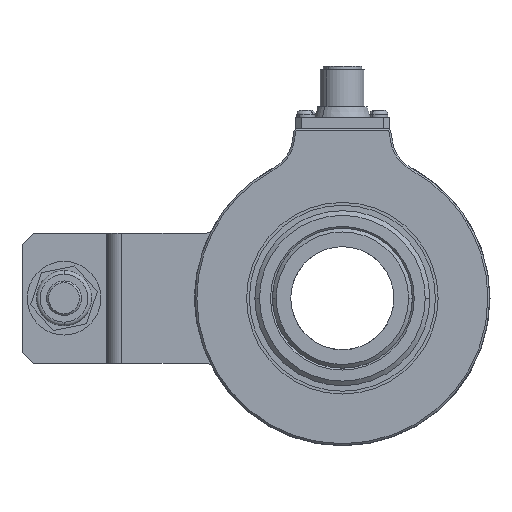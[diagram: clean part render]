
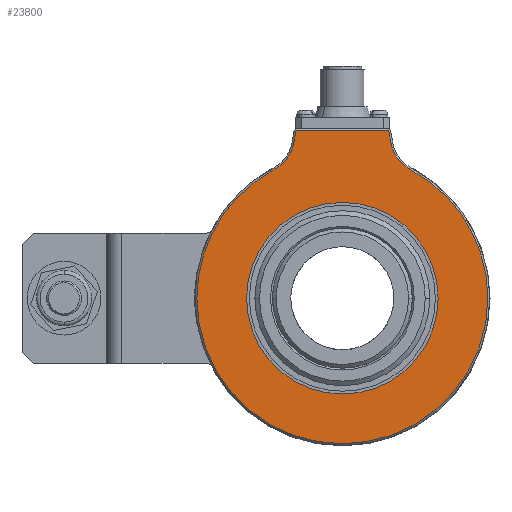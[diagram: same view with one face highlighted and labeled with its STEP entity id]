
A CAD part, left-side view. The second image highlights one B-rep face of the part: STEP entity #23800.
In plain terms, the highlighted planar face has unit normal (-1, 0, 0).
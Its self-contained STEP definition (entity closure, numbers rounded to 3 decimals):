
#132 = LINE ( 'NONE', #17100, #4516 ) ;
#799 = ORIENTED_EDGE ( 'NONE', *, *, #2074, .T. ) ;
#1121 = VERTEX_POINT ( 'NONE', #22113 ) ;
#1214 = DIRECTION ( 'NONE',  ( 1., 0., 0. ) ) ;
#1532 = ORIENTED_EDGE ( 'NONE', *, *, #3331, .T. ) ;
#1779 = DIRECTION ( 'NONE',  ( -1., 0., 0. ) ) ;
#1788 = CARTESIAN_POINT ( 'NONE',  ( -26., -18.776, 10.364 ) ) ;
#2074 = EDGE_CURVE ( 'NONE', #21952, #12821, #11910, .T. ) ;
#2285 = CIRCLE ( 'NONE', #24712, 39.5 ) ;
#2787 = DIRECTION ( 'NONE',  ( 0., -1., 0. ) ) ;
#3058 = CARTESIAN_POINT ( 'NONE',  ( -26., 0., 0. ) ) ;
#3172 = DIRECTION ( 'NONE',  ( 0., -1., 0. ) ) ;
#3219 = VERTEX_POINT ( 'NONE', #14138 ) ;
#3254 = PLANE ( 'NONE',  #25230 ) ;
#3331 = EDGE_CURVE ( 'NONE', #3219, #7469, #10582, .T. ) ;
#3537 = DIRECTION ( 'NONE',  ( -1., 0., 0. ) ) ;
#3846 = DIRECTION ( 'NONE',  ( 1., 0., 0. ) ) ;
#3973 = ORIENTED_EDGE ( 'NONE', *, *, #17272, .T. ) ;
#4516 = VECTOR ( 'NONE', #17234, 1000. ) ;
#4888 = DIRECTION ( 'NONE',  ( 1., 0., 0. ) ) ;
#4925 = CIRCLE ( 'NONE', #7189, 26. ) ;
#4972 = EDGE_CURVE ( 'NONE', #12821, #1121, #12468, .T. ) ;
#5895 = AXIS2_PLACEMENT_3D ( 'NONE', #8724, #3846, #21617 ) ;
#5929 = EDGE_CURVE ( 'NONE', #7469, #21952, #25199, .T. ) ;
#6425 = CARTESIAN_POINT ( 'NONE',  ( -26., 26., 0. ) ) ;
#6668 = VECTOR ( 'NONE', #10369, 1000. ) ;
#6674 = DIRECTION ( 'NONE',  ( 0., 0.174, -0.985 ) ) ;
#7189 = AXIS2_PLACEMENT_3D ( 'NONE', #17540, #4888, #20182 ) ;
#7469 = VERTEX_POINT ( 'NONE', #18604 ) ;
#7759 = FACE_BOUND ( 'NONE', #24065, .T. ) ;
#8068 = VERTEX_POINT ( 'NONE', #24023 ) ;
#8724 = CARTESIAN_POINT ( 'NONE',  ( -26., 0., 0. ) ) ;
#9091 = CARTESIAN_POINT ( 'NONE',  ( -26., 23.482, 44.143 ) ) ;
#9289 = CIRCLE ( 'NONE', #24971, 10.5 ) ;
#9656 = CARTESIAN_POINT ( 'NONE',  ( -26., -23.482, 44.143 ) ) ;
#10318 = EDGE_LOOP ( 'NONE', ( #22698, #26578, #15850, #3973, #19292, #1532, #16484, #799 ) ) ;
#10361 = DIRECTION ( 'NONE',  ( 0., -1., 0. ) ) ;
#10369 = DIRECTION ( 'NONE',  ( 0., 0.174, 0.985 ) ) ;
#10582 = CIRCLE ( 'NONE', #17724, 39.5 ) ;
#11153 = EDGE_CURVE ( 'NONE', #11327, #19068, #4925, .T. ) ;
#11327 = VERTEX_POINT ( 'NONE', #6425 ) ;
#11910 = CIRCLE ( 'NONE', #23996, 10.5 ) ;
#11945 = CARTESIAN_POINT ( 'NONE',  ( -26., 0., 0. ) ) ;
#12388 = EDGE_CURVE ( 'NONE', #1121, #8068, #132, .T. ) ;
#12468 = LINE ( 'NONE', #1788, #6668 ) ;
#12821 = VERTEX_POINT ( 'NONE', #18745 ) ;
#13973 = CARTESIAN_POINT ( 'NONE',  ( -26., -26., 0. ) ) ;
#14079 = FACE_OUTER_BOUND ( 'NONE', #10318, .T. ) ;
#14138 = CARTESIAN_POINT ( 'NONE',  ( -26., 39.5, 0. ) ) ;
#14328 = DIRECTION ( 'NONE',  ( 0., -1., 0. ) ) ;
#14425 = CIRCLE ( 'NONE', #5895, 26. ) ;
#15391 = CARTESIAN_POINT ( 'NONE',  ( -26., 21.188, -3.317 ) ) ;
#15850 = ORIENTED_EDGE ( 'NONE', *, *, #19979, .T. ) ;
#16484 = ORIENTED_EDGE ( 'NONE', *, *, #5929, .T. ) ;
#16560 = ORIENTED_EDGE ( 'NONE', *, *, #11153, .T. ) ;
#16705 = CARTESIAN_POINT ( 'NONE',  ( -26., -18.551, 34.873 ) ) ;
#17057 = VERTEX_POINT ( 'NONE', #26801 ) ;
#17100 = CARTESIAN_POINT ( 'NONE',  ( -26., 40., 45.5 ) ) ;
#17234 = DIRECTION ( 'NONE',  ( 0., 1., 0. ) ) ;
#17272 = EDGE_CURVE ( 'NONE', #17057, #18890, #9289, .T. ) ;
#17540 = CARTESIAN_POINT ( 'NONE',  ( -26., 0., 0. ) ) ;
#17724 = AXIS2_PLACEMENT_3D ( 'NONE', #20995, #1779, #10361 ) ;
#18139 = DIRECTION ( 'NONE',  ( 0., -1., 0. ) ) ;
#18604 = CARTESIAN_POINT ( 'NONE',  ( -26., -39.5, 0. ) ) ;
#18745 = CARTESIAN_POINT ( 'NONE',  ( -26., -13.141, 42.32 ) ) ;
#18762 = ORIENTED_EDGE ( 'NONE', *, *, #22572, .T. ) ;
#18890 = VERTEX_POINT ( 'NONE', #25601 ) ;
#19068 = VERTEX_POINT ( 'NONE', #13973 ) ;
#19292 = ORIENTED_EDGE ( 'NONE', *, *, #22184, .T. ) ;
#19979 = EDGE_CURVE ( 'NONE', #8068, #17057, #21823, .T. ) ;
#20182 = DIRECTION ( 'NONE',  ( 0., 1., 0. ) ) ;
#20191 = VECTOR ( 'NONE', #6674, 1000. ) ;
#20995 = CARTESIAN_POINT ( 'NONE',  ( -26., 0., 0. ) ) ;
#21425 = DIRECTION ( 'NONE',  ( 0., -1., 0. ) ) ;
#21617 = DIRECTION ( 'NONE',  ( 0., 1., 0. ) ) ;
#21823 = LINE ( 'NONE', #15391, #20191 ) ;
#21952 = VERTEX_POINT ( 'NONE', #16705 ) ;
#22113 = CARTESIAN_POINT ( 'NONE',  ( -26., -12.58, 45.5 ) ) ;
#22184 = EDGE_CURVE ( 'NONE', #18890, #3219, #2285, .T. ) ;
#22493 = CARTESIAN_POINT ( 'NONE',  ( -26., 40., 0. ) ) ;
#22572 = EDGE_CURVE ( 'NONE', #19068, #11327, #14425, .T. ) ;
#22698 = ORIENTED_EDGE ( 'NONE', *, *, #4972, .T. ) ;
#23800 = ADVANCED_FACE ( 'NONE', ( #14079, #7759 ), #3254, .T. ) ;
#23981 = DIRECTION ( 'NONE',  ( -1., 0., 0. ) ) ;
#23996 = AXIS2_PLACEMENT_3D ( 'NONE', #9656, #1214, #3172 ) ;
#24023 = CARTESIAN_POINT ( 'NONE',  ( -26., 12.58, 45.5 ) ) ;
#24065 = EDGE_LOOP ( 'NONE', ( #16560, #18762 ) ) ;
#24712 = AXIS2_PLACEMENT_3D ( 'NONE', #3058, #23981, #2787 ) ;
#24971 = AXIS2_PLACEMENT_3D ( 'NONE', #9091, #25935, #21425 ) ;
#25199 = CIRCLE ( 'NONE', #25641, 39.5 ) ;
#25230 = AXIS2_PLACEMENT_3D ( 'NONE', #22493, #3537, #18139 ) ;
#25601 = CARTESIAN_POINT ( 'NONE',  ( -26., 18.551, 34.873 ) ) ;
#25641 = AXIS2_PLACEMENT_3D ( 'NONE', #11945, #27105, #14328 ) ;
#25935 = DIRECTION ( 'NONE',  ( 1., 0., 0. ) ) ;
#26578 = ORIENTED_EDGE ( 'NONE', *, *, #12388, .T. ) ;
#26801 = CARTESIAN_POINT ( 'NONE',  ( -26., 13.141, 42.32 ) ) ;
#27105 = DIRECTION ( 'NONE',  ( -1., 0., 0. ) ) ;
